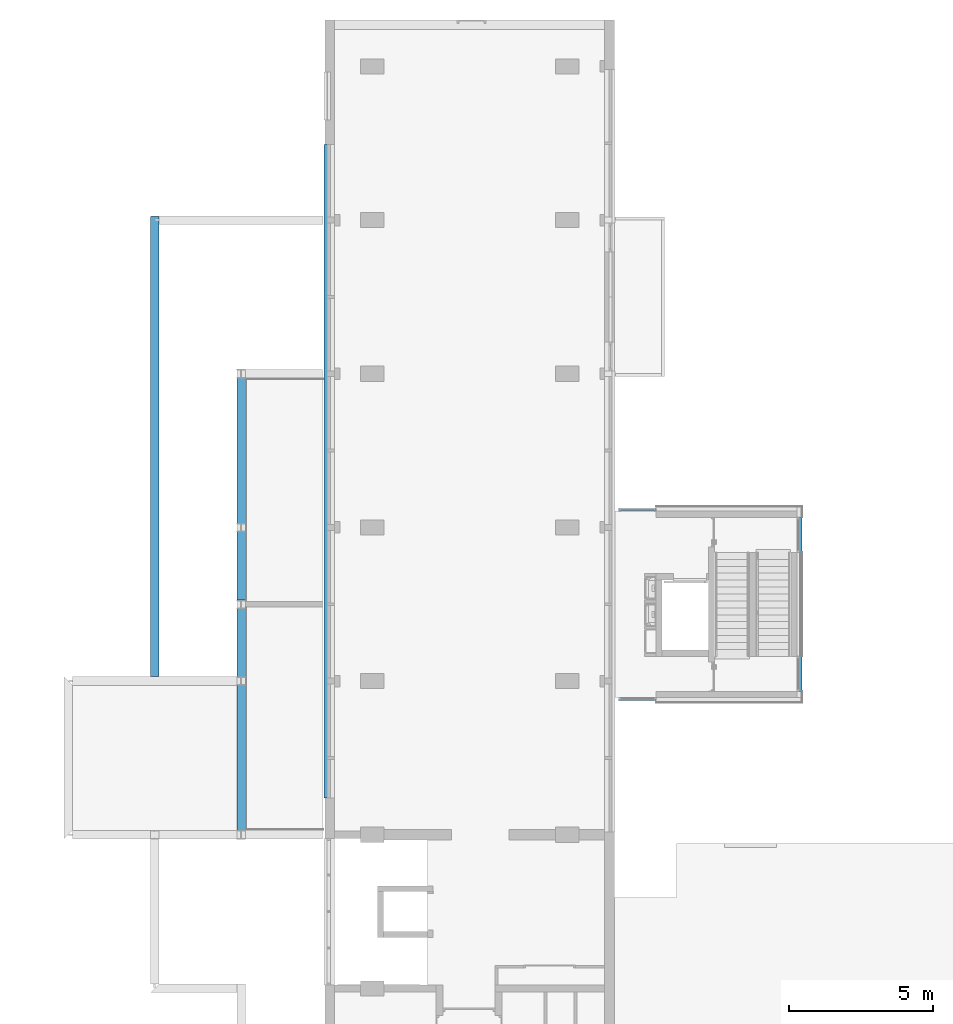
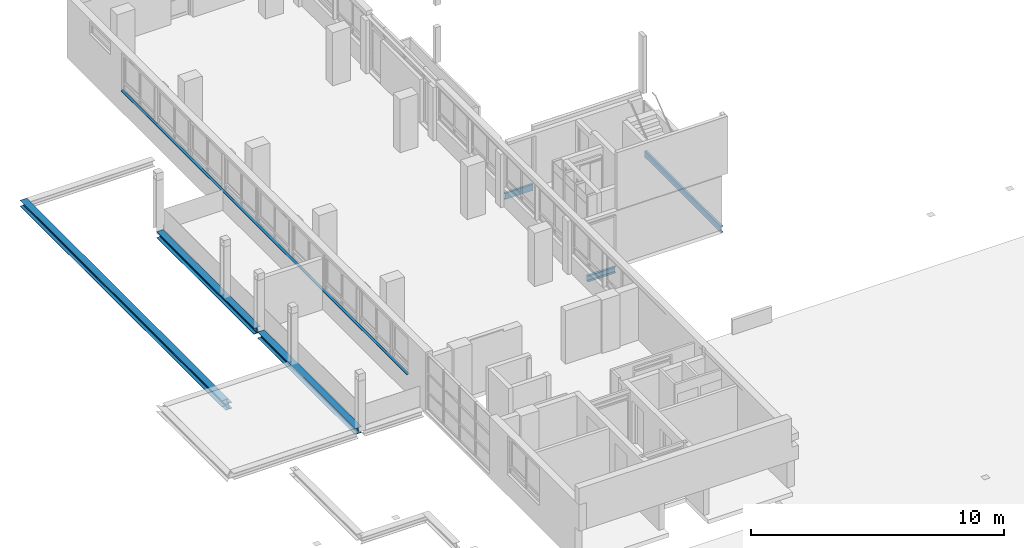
# One storey, part 7 of 22: 7 beams.
"""IFC2X3 building model written with IfcOpenShell, lengths in millimetres."""

from ifc_helpers import new_model, entity, si_unit, converted_unit, derived_unit, money_unit, direction, frame, origin_with_axes, place, context, subcontext, project, spatial, faceted_brep, material, type_object, element, save


model = new_model("IFC2X3")

# Units and contexts
model_context = context("Model", 3, precision=0.01, world=origin_with_axes(), true_north=direction((0.0, 1.0)))
body_context = subcontext(model_context, "Body", "Model", "MODEL_VIEW")
ifc_project = project(units=[si_unit("LENGTHUNIT", "METRE", prefix="MILLI"), si_unit("AREAUNIT", "SQUARE_METRE"), si_unit("VOLUMEUNIT", "CUBIC_METRE"), converted_unit("PLANEANGLEUNIT", "DEGREE", entity("IfcPlaneAngleMeasure", 0.0174532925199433), si_unit("PLANEANGLEUNIT", "RADIAN"), dimensions=[0, 0, 0, 0, 0, 0, 0]), money_unit("EUR"), converted_unit("TIMEUNIT", "Year", entity("IfcTimeMeasure", 31557600.0), si_unit("TIMEUNIT", "SECOND"), dimensions=[0, 0, 1, 0, 0, 0, 0]), si_unit("MASSUNIT", "GRAM", prefix="KILO"), si_unit("THERMODYNAMICTEMPERATUREUNIT", "DEGREE_CELSIUS"), si_unit("LUMINOUSINTENSITYUNIT", "LUMEN"), si_unit("ENERGYUNIT", "JOULE", prefix="MEGA"), derived_unit("THERMALCONDUCTANCEUNIT", [(si_unit("POWERUNIT", "WATT"), 1), (si_unit("LENGTHUNIT", "METRE"), -1), (si_unit("THERMODYNAMICTEMPERATUREUNIT", "KELVIN"), -1)]), derived_unit("SPECIFICHEATCAPACITYUNIT", [(si_unit("ENERGYUNIT", "JOULE"), 1), (si_unit("MASSUNIT", "GRAM", prefix="KILO"), -1), (si_unit("THERMODYNAMICTEMPERATUREUNIT", "KELVIN"), -1)]), derived_unit("MASSDENSITYUNIT", [(si_unit("MASSUNIT", "GRAM", prefix="KILO"), 1), (si_unit("VOLUMEUNIT", "CUBIC_METRE"), -1)])], contexts=[model_context])

# Site, building, storey
site_placement = place(None, origin_with_axes())
site = spatial("IfcSite", under=ifc_project, at=site_placement, Name="Site", CompositionType="ELEMENT")
building_placement = place(site_placement, origin_with_axes())
building = spatial("IfcBuilding", under=site, at=building_placement, Name="Naam gebouw", CompositionType="ELEMENT")
storey_placement = place(building_placement, frame((0.0, 0.0, 8690.0), z_axis=(0.0, 0.0, 1.0), x_axis=(1.0, 0.0, 0.0)))
storey = spatial("IfcBuildingStorey", under=building, at=storey_placement, Name="2e verdieping V", CompositionType="ELEMENT", Elevation=8690.0)

# Beams
ifc_material_1 = material(Name="Metaal - Aluminium")
beam_type_1 = type_object("IfcBeamType", Name="Lekdorpel 107 x 49", PredefinedType="BEAM")
beam_1_placement = place(storey_placement, frame((20206.0, 51890.87989469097, 849.9999999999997), z_axis=(0.0, 0.0, 1.0), x_axis=(-1.0, 0.0, 0.0)))
element("IfcBeam", 1, at=beam_1_placement, inside=storey, type_object=beam_type_1, material=ifc_material_1, Name="_Balk-x", ObjectType="BEAM", context=body_context, shape_type="Brep", body=[
    faceted_brep([(27.99999999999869, 0.0, -1.678199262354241), (28.00000000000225, 22660.96746959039, -1.678199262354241), (28.00000000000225, 22660.96746959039, -16.53589838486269), (27.99999999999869, 0.0, -16.53589838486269), (-77.00000000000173, 0.0, 16.83613371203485), (-76.99999999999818, 22660.96746959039, 16.83613371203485), (-76.99999999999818, 22660.96746959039, 28.51433297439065), (-74.99999999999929, 22660.96746959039, 28.51433297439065), (-74.99999999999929, 22660.96746959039, 18.51433297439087), (30.00000000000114, 22660.96746959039, 0.0), (30.00000000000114, 22660.96746959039, -19.99999999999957), (19.99999999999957, 22660.96746959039, -14.22649730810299), (19.99999999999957, 22660.96746959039, -11.91709623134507), (19.99999999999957, 0.0, -11.91709623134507), (19.99999999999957, 0.0, -14.22649730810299), (30.00000000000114, 0.0, -19.99999999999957), (30.00000000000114, 0.0, 0.0), (-74.99999999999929, 0.0, 18.51433297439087), (-74.99999999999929, 0.0, 28.51433297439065), (-77.00000000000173, 0.0, 28.51433297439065)], [[[0, 1, 2, 3]], [[4, 5, 1, 0]], [[2, 1, 5, 6, 7, 8, 9, 10, 11, 12]], [[3, 2, 12, 13]], [[4, 0, 3, 13, 14, 15, 16, 17, 18, 19]], [[19, 6, 5, 4]], [[18, 7, 6, 19]], [[17, 8, 7, 18]], [[16, 9, 8, 17]], [[15, 10, 9, 16]], [[14, 11, 10, 15]], [[13, 12, 11, 14]]]),
])
ifc_material_2 = material(Name="staal geanodiseerd RAL 7024")
beam_type_2 = type_object("IfcBeamType", Name="NLRS_28_SF_staal - balk - UNP:UNP300", PredefinedType="BEAM")
beam_2_placement = place(storey_placement, frame((31685.00219861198, 39234.57878397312, -150.0000000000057), z_axis=(0.0, 0.0, 1.0), x_axis=(0.0, 1.0, 0.0)))
element("IfcBeam", 2, at=beam_2_placement, inside=storey, type_object=beam_type_2, material=ifc_material_2, Name="NLRS_28_SF_staal - balk - UNP:UNP300", ObjectType="BEAM", context=body_context, shape_type="Brep", body=[
    faceted_brep([(-54.66666666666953, 0.0, 150.0000000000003), (-54.66666666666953, 1294.002198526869, 150.0000000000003), (-54.66666666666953, 1294.002198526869, -150.0000000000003), (-54.66666666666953, 0.0, -150.0000000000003), (45.33333333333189, 0.0, 150.0000000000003), (45.33333333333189, 1294.002198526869, 150.0000000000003), (45.33333333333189, 1294.002198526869, 144.1000000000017), (42.99018758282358, 1294.002198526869, 138.4431457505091), (37.33333333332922, 1294.002198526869, 136.1000000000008), (-28.66666666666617, 1294.002198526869, 132.8000000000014), (-36.66666666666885, 1294.002198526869, 130.6564064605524), (-42.52307312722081, 1294.002198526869, 124.8000000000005), (-44.66666666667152, 1294.002198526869, 116.7999999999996), (-44.66666666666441, 1294.002198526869, -116.8000000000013), (-42.52307312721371, 1294.002198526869, -124.8000000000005), (-36.66666666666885, 1294.002198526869, -130.6564064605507), (-28.66666666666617, 1294.002198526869, -132.7999999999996), (37.33333333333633, 1294.002198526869, -136.099999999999), (42.99018758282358, 1294.002198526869, -138.4431457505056), (45.33333333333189, 1294.002198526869, -144.0999999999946), (45.33333333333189, 1294.002198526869, -150.0000000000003), (45.33333333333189, 0.0, -150.0000000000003), (45.33333333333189, 0.0, -144.0999999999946), (42.99018758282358, 0.0, -138.4431457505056), (37.33333333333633, 0.0, -136.099999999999), (-28.66666666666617, 0.0, -132.7999999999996), (-36.66666666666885, 0.0, -130.6564064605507), (-42.52307312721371, 0.0, -124.8000000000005), (-44.66666666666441, 0.0, -116.8000000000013), (-44.66666666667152, 0.0, 116.7999999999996), (-42.52307312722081, 0.0, 124.8000000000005), (-36.66666666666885, 0.0, 130.6564064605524), (-28.66666666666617, 0.0, 132.8000000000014), (37.33333333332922, 0.0, 136.1000000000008), (42.99018758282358, 0.0, 138.4431457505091), (45.33333333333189, 0.0, 144.1000000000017)], [[[0, 1, 2, 3]], [[4, 5, 1, 0]], [[2, 1, 5, 6, 7, 8, 9, 10, 11, 12, 13, 14, 15, 16, 17, 18, 19, 20]], [[3, 2, 20, 21]], [[4, 0, 3, 21, 22, 23, 24, 25, 26, 27, 28, 29, 30, 31, 32, 33, 34, 35]], [[35, 6, 5, 4]], [[34, 7, 6, 35]], [[33, 8, 7, 34]], [[32, 9, 8, 33]], [[31, 10, 9, 32]], [[30, 11, 10, 31]], [[29, 12, 11, 30]], [[28, 13, 12, 29]], [[27, 14, 13, 28]], [[26, 15, 14, 27]], [[25, 16, 15, 26]], [[24, 17, 16, 25]], [[23, 18, 17, 24]], [[22, 19, 18, 23]], [[21, 20, 19, 22]]]),
])
ifc_material_3 = material(Name="staal")
beam_3_placement = place(storey_placement, frame((31685.00219855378, 32657.24606858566, -150.0000000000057), z_axis=(0.0, 0.0, 1.0), x_axis=(0.0, 1.0, 0.0)))
element("IfcBeam", 3, at=beam_3_placement, inside=storey, type_object=beam_type_2, material=ifc_material_3, Name="NLRS_28_SF_staal - balk - UNP:UNP300", ObjectType="BEAM", context=body_context, shape_type="Brep", body=[
    faceted_brep([(-45.33333333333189, 0.0, 150.0000000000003), (-45.33333333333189, 1294.002198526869, 150.0000000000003), (-45.33333333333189, 1294.002198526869, 144.0999999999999), (-45.33333333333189, 0.0, 144.0999999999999), (54.66666666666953, 0.0, 150.0000000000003), (54.66666666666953, 1294.002198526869, 150.0000000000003), (54.66666666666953, 1294.002198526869, -150.0000000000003), (-45.33333333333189, 1294.002198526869, -150.0000000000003), (-45.33333333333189, 1294.002198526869, -144.0999999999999), (-42.99018758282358, 1294.002198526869, -138.4431457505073), (-37.33333333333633, 1294.002198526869, -136.099999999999), (28.66666666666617, 1294.002198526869, -132.7999999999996), (36.66666666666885, 1294.002198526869, -130.6564064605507), (42.52307312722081, 1294.002198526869, -124.8000000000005), (44.66666666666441, 1294.002198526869, -116.7999999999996), (44.66666666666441, 1294.002198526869, 116.7999999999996), (42.52307312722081, 1294.002198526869, 124.7999999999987), (36.66666666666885, 1294.002198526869, 130.6564064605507), (28.66666666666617, 1294.002198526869, 132.7999999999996), (-37.33333333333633, 1294.002198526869, 136.1000000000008), (-42.99018758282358, 1294.002198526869, 138.4431457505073), (-42.99018758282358, 0.0, 138.4431457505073), (-37.33333333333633, 0.0, 136.1000000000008), (28.66666666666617, 0.0, 132.7999999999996), (36.66666666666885, 0.0, 130.6564064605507), (42.52307312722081, 0.0, 124.7999999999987), (44.66666666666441, 0.0, 116.7999999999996), (44.66666666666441, 0.0, -116.7999999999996), (42.52307312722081, 0.0, -124.8000000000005), (36.66666666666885, 0.0, -130.6564064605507), (28.66666666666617, 0.0, -132.7999999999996), (-37.33333333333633, 0.0, -136.099999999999), (-42.99018758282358, 0.0, -138.4431457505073), (-45.33333333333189, 0.0, -144.0999999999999), (-45.33333333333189, 0.0, -150.0000000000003), (54.66666666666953, 0.0, -150.0000000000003)], [[[0, 1, 2, 3]], [[4, 5, 1, 0]], [[2, 1, 5, 6, 7, 8, 9, 10, 11, 12, 13, 14, 15, 16, 17, 18, 19, 20]], [[3, 2, 20, 21]], [[4, 0, 3, 21, 22, 23, 24, 25, 26, 27, 28, 29, 30, 31, 32, 33, 34, 35]], [[35, 6, 5, 4]], [[34, 7, 6, 35]], [[33, 8, 7, 34]], [[32, 9, 8, 33]], [[31, 10, 9, 32]], [[30, 11, 10, 31]], [[29, 12, 11, 30]], [[28, 13, 12, 29]], [[27, 14, 13, 28]], [[26, 15, 14, 27]], [[25, 16, 15, 26]], [[24, 17, 16, 25]], [[23, 18, 17, 24]], [[22, 19, 18, 23]], [[21, 20, 19, 22]]]),
])
beam_4_placement = place(storey_placement, frame((36706.66666671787, 38965.91242629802, -150.0000000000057), z_axis=(0.0, 0.0, 1.0), x_axis=(-1.0, 0.0, 0.0)))
element("IfcBeam", 4, at=beam_4_placement, inside=storey, type_object=beam_type_2, material=ifc_material_3, Name="NLRS_28_SF_staal - balk - UNP:UNP300", ObjectType="BEAM", context=body_context, shape_type="Brep", body=[
    faceted_brep([(-45.33333333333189, 0.0, 150.0000000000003), (-45.33333333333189, 6039.999999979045, 150.0000000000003), (-45.33333333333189, 6039.999999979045, 144.0999999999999), (-45.33333333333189, 0.0, 144.0999999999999), (54.66666666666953, 0.0, 150.0000000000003), (54.66666666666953, 6039.999999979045, 150.0000000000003), (54.66666666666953, 6039.999999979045, -150.0000000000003), (-45.33333333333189, 6039.999999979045, -150.0000000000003), (-45.33333333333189, 6039.999999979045, -144.0999999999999), (-42.99018758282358, 6039.999999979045, -138.4431457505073), (-37.33333333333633, 6039.999999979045, -136.099999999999), (28.66666666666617, 6039.999999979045, -132.7999999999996), (36.66666666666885, 6039.999999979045, -130.6564064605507), (42.52307312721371, 6039.999999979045, -124.8000000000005), (44.66666666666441, 6039.999999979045, -116.7999999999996), (44.66666666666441, 6039.999999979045, 116.7999999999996), (42.52307312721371, 6039.999999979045, 124.7999999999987), (36.66666666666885, 6039.999999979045, 130.6564064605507), (28.66666666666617, 6039.999999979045, 132.7999999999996), (-37.33333333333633, 6039.999999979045, 136.1000000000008), (-42.99018758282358, 6039.999999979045, 138.4431457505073), (-42.99018758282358, 0.0, 138.4431457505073), (-37.33333333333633, 0.0, 136.1000000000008), (28.66666666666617, 0.0, 132.7999999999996), (36.66666666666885, 0.0, 130.6564064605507), (42.52307312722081, 0.0, 124.7999999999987), (44.66666666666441, 0.0, 116.7999999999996), (44.66666666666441, 0.0, -116.7999999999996), (42.52307312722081, 0.0, -124.8000000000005), (36.66666666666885, 0.0, -130.6564064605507), (28.66666666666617, 0.0, -132.7999999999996), (-37.33333333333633, 0.0, -136.099999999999), (-42.99018758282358, 0.0, -138.4431457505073), (-45.33333333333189, 0.0, -144.0999999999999), (-45.33333333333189, 0.0, -150.0000000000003), (54.66666666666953, 0.0, -150.0000000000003)], [[[0, 1, 2, 3]], [[4, 5, 1, 0]], [[2, 1, 5, 6, 7, 8, 9, 10, 11, 12, 13, 14, 15, 16, 17, 18, 19, 20]], [[3, 2, 20, 21]], [[4, 0, 3, 21, 22, 23, 24, 25, 26, 27, 28, 29, 30, 31, 32, 33, 34, 35]], [[35, 6, 5, 4]], [[34, 7, 6, 35]], [[33, 8, 7, 34]], [[32, 9, 8, 33]], [[31, 10, 9, 32]], [[30, 11, 10, 31]], [[29, 12, 11, 30]], [[28, 13, 12, 29]], [[27, 14, 13, 28]], [[26, 15, 14, 27]], [[25, 16, 15, 26]], [[24, 17, 16, 25]], [[23, 18, 17, 24]], [[22, 19, 18, 23]], [[21, 20, 19, 22]]]),
])
beam_type_3 = type_object("IfcBeamType", Name="NLRS_28_SF_LIB_balk HE_generiek_ISR:balk HE_gen_HEB300", PredefinedType="BEAM")
beam_5_placement = place(storey_placement, frame((17292.00000003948, 35800.91242631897, -150.0000000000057), z_axis=(0.0, 0.0, 1.0), x_axis=(-1.0, 0.0, 0.0)))
element("IfcBeam", 5, at=beam_5_placement, inside=storey, type_object=beam_type_3, material=ifc_material_2, Name="NLRS_28_SF_LIB_balk HE_generiek_ISR:balk HE_gen_HEB300", ObjectType="BEAM", context=body_context, shape_type="Brep", body=[
    faceted_brep([(-150.0000000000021, 0.0, 150.0000000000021), (-150.0000000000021, 7695.000000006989, 150.0000000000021), (-150.0000000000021, 7695.000000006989, 131.000000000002), (-150.0000000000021, 0.0, 131.000000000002), (149.9999999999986, 0.0, 150.0000000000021), (149.9999999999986, 7695.000000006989, 150.0000000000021), (149.9999999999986, 7695.000000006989, 131.000000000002), (32.50000000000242, 7695.000000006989, 131.000000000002), (18.99999999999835, 7695.000000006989, 127.382685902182), (9.117314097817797, 7695.000000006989, 117.5000000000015), (5.49999999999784, 7695.000000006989, 104.000000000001), (5.49999999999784, 7695.000000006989, -103.9999999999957), (9.117314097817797, 7695.000000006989, -117.4999999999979), (18.99999999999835, 7695.000000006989, -127.3826859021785), (32.50000000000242, 7695.000000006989, -130.9999999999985), (149.9999999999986, 7695.000000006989, -130.9999999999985), (149.9999999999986, 7695.000000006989, -149.9999999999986), (-150.0000000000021, 7695.000000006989, -149.9999999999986), (-150.0000000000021, 7695.000000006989, -130.9999999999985), (-32.50000000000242, 7695.000000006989, -130.9999999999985), (-19.0000000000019, 7695.000000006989, -127.3826859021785), (-9.11731409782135, 7695.000000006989, -117.4999999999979), (-5.500000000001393, 7695.000000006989, -103.9999999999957), (-5.500000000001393, 7695.000000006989, 104.000000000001), (-9.11731409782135, 7695.000000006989, 117.5000000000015), (-19.0000000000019, 7695.000000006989, 127.382685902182), (-32.50000000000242, 7695.000000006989, 131.000000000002), (-32.50000000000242, 0.0, 131.000000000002), (-19.0000000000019, 0.0, 127.382685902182), (-9.11731409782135, 0.0, 117.5000000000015), (-5.500000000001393, 0.0, 104.000000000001), (-5.500000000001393, 0.0, -103.9999999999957), (-9.11731409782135, 0.0, -117.4999999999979), (-19.0000000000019, 0.0, -127.3826859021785), (-32.50000000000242, 0.0, -130.9999999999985), (-150.0000000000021, 0.0, -130.9999999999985), (-150.0000000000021, 0.0, -149.9999999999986), (149.9999999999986, 0.0, -149.9999999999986), (149.9999999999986, 0.0, -130.9999999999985), (32.50000000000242, 0.0, -130.9999999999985), (19.0000000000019, 0.0, -127.3826859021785), (9.11731409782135, 0.0, -117.4999999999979), (5.49999999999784, 0.0, -103.9999999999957), (5.49999999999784, 0.0, 104.000000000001), (9.11731409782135, 0.0, 117.5000000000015), (19.0000000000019, 0.0, 127.382685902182), (32.50000000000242, 0.0, 131.000000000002), (149.9999999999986, 0.0, 131.000000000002)], [[[0, 1, 2, 3]], [[4, 5, 1, 0]], [[2, 1, 5, 6, 7, 8, 9, 10, 11, 12, 13, 14, 15, 16, 17, 18, 19, 20, 21, 22, 23, 24, 25, 26]], [[3, 2, 26, 27]], [[4, 0, 3, 27, 28, 29, 30, 31, 32, 33, 34, 35, 36, 37, 38, 39, 40, 41, 42, 43, 44, 45, 46, 47]], [[47, 6, 5, 4]], [[46, 7, 6, 47]], [[45, 8, 7, 46]], [[44, 9, 8, 45]], [[43, 10, 9, 44]], [[42, 11, 10, 43]], [[41, 12, 11, 42]], [[40, 13, 12, 41]], [[39, 14, 13, 40]], [[38, 15, 14, 39]], [[37, 16, 15, 38]], [[36, 17, 16, 37]], [[35, 18, 17, 36]], [[34, 19, 18, 35]], [[33, 20, 19, 34]], [[32, 21, 20, 33]], [[31, 22, 21, 32]], [[30, 23, 22, 31]], [[29, 24, 23, 30]], [[28, 25, 24, 29]], [[27, 26, 25, 28]]]),
])
beam_6_placement = place(storey_placement, frame((17292.00000003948, 36100.91242636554, -150.0000000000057), z_axis=(0.0, 0.0, 1.0), x_axis=(1.0, 0.0, 0.0)))
element("IfcBeam", 6, at=beam_6_placement, inside=storey, type_object=beam_type_3, material=ifc_material_2, Name="NLRS_28_SF_LIB_balk HE_generiek_ISR:balk HE_gen_HEB300", ObjectType="BEAM", context=body_context, shape_type="Brep", body=[
    faceted_brep([(-150.0000000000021, 0.0, 150.0000000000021), (-150.0000000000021, 7694.999999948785, 150.0000000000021), (-150.0000000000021, 7694.999999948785, 131.000000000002), (-150.0000000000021, 0.0, 131.000000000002), (149.9999999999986, 0.0, 150.0000000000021), (149.9999999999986, 7694.999999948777, 150.0000000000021), (149.9999999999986, 7694.999999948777, 131.000000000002), (32.50000000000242, 7694.999999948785, 131.000000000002), (18.99999999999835, 7694.999999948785, 127.382685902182), (9.117314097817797, 7694.999999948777, 117.5000000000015), (5.49999999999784, 7694.999999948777, 104.000000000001), (5.49999999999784, 7694.999999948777, -103.9999999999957), (9.117314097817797, 7694.999999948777, -117.4999999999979), (18.99999999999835, 7694.999999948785, -127.3826859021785), (32.50000000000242, 7694.999999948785, -130.9999999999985), (149.9999999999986, 7694.999999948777, -130.9999999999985), (149.9999999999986, 7694.999999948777, -149.9999999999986), (-150.0000000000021, 7694.999999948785, -149.9999999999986), (-150.0000000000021, 7694.999999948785, -130.9999999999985), (-32.50000000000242, 7694.999999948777, -130.9999999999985), (-19.0000000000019, 7694.999999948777, -127.3826859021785), (-9.11731409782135, 7694.999999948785, -117.4999999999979), (-5.500000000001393, 7694.999999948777, -103.9999999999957), (-5.500000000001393, 7694.999999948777, 104.000000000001), (-9.11731409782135, 7694.999999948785, 117.5000000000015), (-19.0000000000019, 7694.999999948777, 127.382685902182), (-32.50000000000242, 7694.999999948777, 131.000000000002), (-32.50000000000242, 0.0, 131.000000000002), (-19.0000000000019, 0.0, 127.382685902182), (-9.11731409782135, 0.0, 117.5000000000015), (-5.500000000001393, 0.0, 104.000000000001), (-5.500000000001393, 0.0, -103.9999999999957), (-9.11731409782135, 0.0, -117.4999999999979), (-19.0000000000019, 0.0, -127.3826859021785), (-32.50000000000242, 0.0, -130.9999999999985), (-150.0000000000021, 0.0, -130.9999999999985), (-150.0000000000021, 0.0, -149.9999999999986), (149.9999999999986, 0.0, -149.9999999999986), (149.9999999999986, 0.0, -130.9999999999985), (32.50000000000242, 0.0, -130.9999999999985), (19.0000000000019, 0.0, -127.3826859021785), (9.11731409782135, 0.0, -117.4999999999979), (5.49999999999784, 0.0, -103.9999999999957), (5.49999999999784, 0.0, 104.000000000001), (9.11731409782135, 0.0, 117.5000000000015), (19.0000000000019, 0.0, 127.382685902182), (32.50000000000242, 0.0, 131.000000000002), (149.9999999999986, 0.0, 131.000000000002)], [[[0, 1, 2, 3]], [[4, 5, 1, 0]], [[2, 1, 5, 6, 7, 8, 9, 10, 11, 12, 13, 14, 15, 16, 17, 18, 19, 20, 21, 22, 23, 24, 25, 26]], [[3, 2, 26, 27]], [[4, 0, 3, 27, 28, 29, 30, 31, 32, 33, 34, 35, 36, 37, 38, 39, 40, 41, 42, 43, 44, 45, 46, 47]], [[47, 6, 5, 4]], [[46, 7, 6, 47]], [[45, 8, 7, 46]], [[44, 9, 8, 45]], [[43, 10, 9, 44]], [[42, 11, 10, 43]], [[41, 12, 11, 42]], [[40, 13, 12, 41]], [[39, 14, 13, 40]], [[38, 15, 14, 39]], [[37, 16, 15, 38]], [[36, 17, 16, 37]], [[35, 18, 17, 36]], [[34, 19, 18, 35]], [[33, 20, 19, 34]], [[32, 21, 20, 33]], [[31, 22, 21, 32]], [[30, 23, 22, 31]], [[29, 24, 23, 30]], [[28, 25, 24, 29]], [[27, 26, 25, 28]]]),
])
beam_7_placement = place(storey_placement, frame((14294.63052970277, 49406.91242634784, -990.0000000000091), z_axis=(0.0, 0.0, 1.0), x_axis=(-1.0, 0.0, 0.0)))
element("IfcBeam", 7, at=beam_7_placement, inside=storey, type_object=beam_type_3, material=ifc_material_2, Name="NLRS_28_SF_LIB_balk HE_generiek_ISR:balk HE_gen_HEB300", ObjectType="BEAM", context=body_context, shape_type="Brep", body=[
    faceted_brep([(18.99999999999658, 16244.75215623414, -127.3826859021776), (12.74784380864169, 16238.5000000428, -121.1305297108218), (9.130529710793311, 16225.00000004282, -117.5132156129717), (9.130529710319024, 16017.00000004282, -117.5132156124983), (12.74784380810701, 16003.50000004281, -121.1305297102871), (18.99999999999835, 15997.24784385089, -127.3826859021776), (12.74784380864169, 16238.5000000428, -149.9999999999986), (22.63052971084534, 16248.38268594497, -128.3554834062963), (22.63052971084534, 16248.38268594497, -149.9999999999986), (9.130529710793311, 16225.00000004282, -149.9999999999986), (9.130529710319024, 16017.00000004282, -149.9999999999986), (12.74784380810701, 16003.50000004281, -149.9999999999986), (22.63052971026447, 15993.61731414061, -128.3554834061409), (22.63052971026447, 15993.61731414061, -149.9999999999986), (32.49999999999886, 16251.02720253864, -130.9999999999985), (32.49999999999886, 15990.97279754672, -130.9999999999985), (36.13052971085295, 16252.00000004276, -130.9999999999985), (36.13052971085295, 16252.00000004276, -149.9999999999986), (149.9999999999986, 16251.99999997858, -149.9999999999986), (149.9999999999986, 15990.0000000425, -149.9999999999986), (36.13052971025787, 15990.00000004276, -149.9999999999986), (36.13052971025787, 15990.00000004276, -130.9999999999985), (149.9999999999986, 16251.99999997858, -130.9999999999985), (149.9999999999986, 15990.0000000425, -130.9999999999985)], [[[0, 1, 2, 3, 4, 5]], [[6, 1, 0, 7, 8]], [[9, 2, 1, 6]], [[10, 3, 2, 9]], [[11, 4, 3, 10]], [[12, 5, 4, 11, 13]], [[14, 7, 0, 5, 12, 15]], [[8, 7, 14, 16, 17]], [[6, 8, 17, 18, 19, 20, 13, 11, 10, 9]], [[21, 15, 12, 13, 20]], [[22, 16, 14, 15, 21, 23]], [[18, 17, 16, 22]], [[22, 23, 19, 18]], [[19, 23, 21, 20]]]),
    faceted_brep([(22.63052971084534, 16248.38268594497, 150.000000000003), (12.74784380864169, 16238.5000000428, 150.000000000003), (9.130529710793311, 16225.00000004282, 150.000000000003), (9.130529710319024, 16017.00000004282, 150.000000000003), (12.74784380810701, 16003.50000004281, 150.000000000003), (22.63052971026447, 15993.61731414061, 150.000000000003), (36.13052971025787, 15990.00000004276, 150.000000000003), (149.9999999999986, 15990.0000000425, 150.000000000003), (149.9999999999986, 16251.99999997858, 150.000000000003), (36.13052971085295, 16252.00000004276, 150.000000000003), (12.74784380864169, 16238.5000000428, 121.1305297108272), (22.63052971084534, 16248.38268594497, 128.3554834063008), (18.99999999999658, 16244.75215623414, 127.382685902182), (9.130529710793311, 16225.00000004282, 117.513215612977), (9.130529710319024, 16017.00000004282, 117.5132156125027), (12.74784380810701, 16003.50000004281, 121.1305297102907), (22.63052971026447, 15993.61731414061, 128.3554834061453), (18.99999999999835, 15997.24784385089, 127.382685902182), (36.13052971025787, 15990.00000004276, 131.0000000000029), (32.49999999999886, 15990.97279754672, 131.0000000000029), (149.9999999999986, 15990.0000000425, 131.0000000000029), (149.9999999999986, 16251.99999997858, 131.0000000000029), (36.13052971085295, 16252.00000004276, 131.0000000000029), (32.49999999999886, 16251.02720253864, 131.0000000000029)], [[[0, 1, 2, 3, 4, 5, 6, 7, 8, 9]], [[10, 1, 0, 11, 12]], [[13, 2, 1, 10]], [[14, 3, 2, 13]], [[15, 4, 3, 14]], [[16, 5, 4, 15, 17]], [[18, 6, 5, 16, 19]], [[20, 7, 6, 18]], [[8, 7, 20, 21]], [[21, 22, 9, 8]], [[11, 0, 9, 22, 23]], [[12, 11, 23, 19, 16, 17]], [[13, 10, 12, 17, 15, 14]], [[19, 23, 22, 21, 20, 18]]]),
    faceted_brep([(-32.50000000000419, 16251.99999997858, 131.0000000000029), (-32.50000000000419, 15990.00000004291, 131.0000000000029), (-146.3694702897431, 15990.00000004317, 131.0000000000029), (-146.3694702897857, 15971.00000004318, 131.0000000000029), (-32.50000000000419, 15971.00000004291, 131.0000000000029), (-32.50000000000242, 0.0, 131.0000000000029), (-150.0000000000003, 0.0, 131.0000000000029), (-150.0000000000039, 16251.99999997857, 131.0000000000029), (-28.86947028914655, 16252.0000000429, 130.0272024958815), (-19.00000000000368, 16249.35548344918, 127.382685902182), (-19.00000000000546, 15992.64451663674, 127.382685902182), (-28.86947028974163, 15990.0000000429, 130.0272024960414), (-28.86947028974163, 15990.0000000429, 150.000000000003), (-146.3694702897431, 15990.00000004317, 150.000000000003), (-146.3694702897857, 15971.00000004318, 150.000000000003), (149.9999999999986, 15971.0000000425, 150.000000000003), (149.9999999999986, 15971.0000000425, 131.0000000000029), (32.49999999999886, 15971.00000004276, 131.0000000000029), (18.99999999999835, 15971.0000000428, 127.382685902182), (9.117314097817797, 15971.00000004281, 117.5000000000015), (5.49999999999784, 15971.00000004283, 104.0000000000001), (5.49999999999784, 15971.00000004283, -103.9999999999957), (9.117314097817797, 15971.00000004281, -117.499999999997), (18.99999999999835, 15971.0000000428, -127.3826859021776), (32.49999999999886, 15971.00000004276, -130.9999999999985), (149.9999999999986, 15971.0000000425, -130.9999999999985), (149.9999999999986, 15971.0000000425, -149.9999999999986), (-146.3694702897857, 15971.00000004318, -149.9999999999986), (-146.3694702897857, 15971.00000004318, -130.9999999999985), (-32.50000000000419, 15971.00000004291, -130.9999999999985), (-19.00000000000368, 15971.00000004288, -127.3826859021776), (-9.117314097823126, 15971.00000004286, -117.499999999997), (-5.500000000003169, 15971.00000004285, -103.9999999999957), (-5.500000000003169, 15971.00000004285, 104.0000000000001), (-9.117314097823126, 15971.00000004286, 117.5000000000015), (-19.00000000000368, 15971.00000004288, 127.382685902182), (-19.0000000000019, 0.0, 127.382685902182), (150.0000000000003, 0.0, 131.0000000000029), (150.0000000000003, 0.0, 150.000000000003), (-150.0000000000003, 0.0, 150.000000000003), (-9.11731409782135, 0.0, 117.5000000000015), (-5.499999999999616, 0.0, 104.0000000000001), (-5.499999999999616, 0.0, -103.9999999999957), (-9.11731409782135, 0.0, -117.499999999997), (-19.0000000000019, 0.0, -127.3826859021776), (-32.50000000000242, 0.0, -130.9999999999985), (-150.0000000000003, 0.0, -130.9999999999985), (-150.0000000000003, 0.0, -149.9999999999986), (150.0000000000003, 0.0, -149.9999999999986), (150.0000000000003, 0.0, -130.9999999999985), (32.50000000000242, 0.0, -130.9999999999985), (19.00000000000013, 0.0, -127.3826859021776), (9.117314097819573, 0.0, -117.499999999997), (5.499999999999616, 0.0, -103.9999999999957), (5.499999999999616, 0.0, 104.0000000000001), (9.117314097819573, 0.0, 117.5000000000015), (19.00000000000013, 0.0, 127.382685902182), (32.50000000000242, 0.0, 131.0000000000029), (-150.0000000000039, 16251.99999997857, 150.000000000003), (-28.86947028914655, 16252.0000000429, 150.000000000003), (-15.36947028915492, 16248.38268594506, 150.000000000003), (-15.36947028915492, 16248.38268594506, 123.7521561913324), (-9.117314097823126, 16242.13052975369, 117.5000000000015), (-9.117314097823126, 15999.86947033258, 117.5000000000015), (-15.36947028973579, 15993.6173141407, 123.7521561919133), (-15.36947028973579, 15993.6173141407, 150.000000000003), (-5.486784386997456, 16238.50000004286, 150.000000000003), (-5.48678438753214, 16003.50000004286, 150.000000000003), (-1.869470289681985, 16017.00000004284, 150.000000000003), (-1.869470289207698, 16225.00000004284, 150.000000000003), (-146.3694702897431, 15990.00000004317, -149.9999999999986), (-150.0000000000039, 16251.99999997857, -149.9999999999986), (-28.86947028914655, 16252.0000000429, -149.9999999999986), (-15.36947028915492, 16248.38268594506, -149.9999999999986), (-5.486784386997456, 16238.50000004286, -149.9999999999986), (-1.869470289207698, 16225.00000004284, -149.9999999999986), (-1.869470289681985, 16017.00000004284, -149.9999999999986), (-5.48678438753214, 16003.50000004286, -149.9999999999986), (-15.36947028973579, 15993.6173141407, -149.9999999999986), (-28.86947028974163, 15990.0000000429, -149.9999999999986), (-146.3694702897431, 15990.00000004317, -130.9999999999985), (-32.50000000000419, 15990.00000004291, -130.9999999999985), (-32.50000000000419, 16251.99999997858, -130.9999999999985), (-150.0000000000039, 16251.99999997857, -130.9999999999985), (-15.36947028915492, 16248.38268594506, -123.752156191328), (-9.117314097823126, 16242.13052975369, -117.499999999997), (-5.500000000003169, 16238.51321565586, -103.9999999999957), (-5.500000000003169, 16238.51321565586, 104.0000000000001), (-5.500000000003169, 16003.48678443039, 104.0000000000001), (-5.500000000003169, 16003.48678443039, -103.9999999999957), (-9.117314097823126, 15999.86947033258, -117.499999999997), (-15.36947028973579, 15993.6173141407, -123.7521561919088), (-28.86947028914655, 16252.0000000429, -130.0272024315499), (-19.00000000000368, 16249.35548344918, -127.3826859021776), (-19.00000000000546, 15992.64451663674, -127.3826859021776), (-28.86947028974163, 15990.0000000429, -130.0272024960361)], [[[0, 1, 2, 3, 4, 5, 6, 7]], [[0, 8, 9, 10, 11, 1]], [[11, 12, 13, 2, 1]], [[2, 13, 14, 3]], [[3, 14, 15, 16, 17, 18, 19, 20, 21, 22, 23, 24, 25, 26, 27, 28, 29, 30, 31, 32, 33, 34, 35, 4]], [[5, 4, 35, 36]], [[37, 38, 39, 6, 5, 36, 40, 41, 42, 43, 44, 45, 46, 47, 48, 49, 50, 51, 52, 53, 54, 55, 56, 57]], [[6, 39, 58, 7]], [[58, 59, 8, 0, 7]], [[9, 8, 59, 60, 61]], [[9, 61, 62, 63, 64, 10]], [[64, 65, 12, 11, 10]], [[66, 60, 59, 58, 39, 38, 15, 14, 13, 12, 65, 67, 68, 69]], [[37, 16, 15, 38]], [[57, 17, 16, 37]], [[56, 18, 17, 57]], [[55, 19, 18, 56]], [[54, 20, 19, 55]], [[53, 21, 20, 54]], [[52, 22, 21, 53]], [[51, 23, 22, 52]], [[50, 24, 23, 51]], [[49, 25, 24, 50]], [[48, 26, 25, 49]], [[70, 27, 26, 48, 47, 71, 72, 73, 74, 75, 76, 77, 78, 79]], [[70, 80, 28, 27]], [[28, 80, 81, 82, 83, 46, 45, 29]], [[44, 30, 29, 45]], [[43, 31, 30, 44]], [[42, 32, 31, 43]], [[41, 33, 32, 42]], [[40, 34, 33, 41]], [[36, 35, 34, 40]], [[47, 46, 83, 71]], [[61, 60, 66, 74, 73, 84, 85, 86, 87, 62]], [[63, 62, 87, 88]], [[77, 67, 65, 64, 63, 88, 89, 90, 91, 78]], [[76, 68, 67, 77]], [[75, 69, 68, 76]], [[74, 66, 69, 75]], [[82, 92, 72, 71, 83]], [[73, 72, 92, 93, 84]], [[91, 94, 95, 79, 78]], [[95, 81, 80, 70, 79]], [[94, 93, 92, 82, 81, 95]], [[85, 84, 93, 94, 91, 90]], [[89, 86, 85, 90]], [[88, 87, 86, 89]]]),
])

save(model, "model.ifc")
